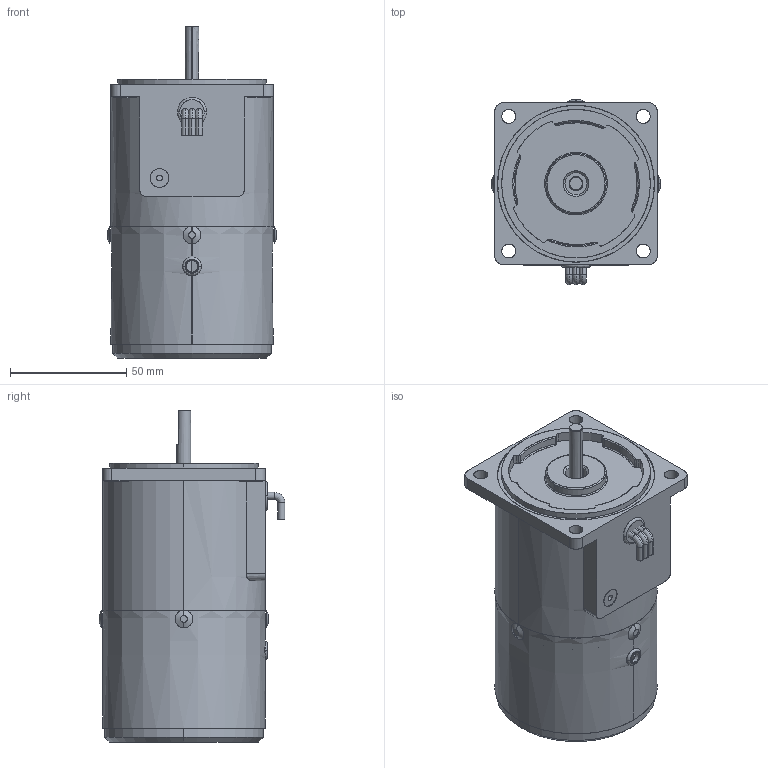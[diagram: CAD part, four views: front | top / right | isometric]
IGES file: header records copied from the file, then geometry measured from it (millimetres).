
Start section: SolidWorks IGES file using analytic representation for surfaces
Global section: file name: C:\Documents and Settings\user\官帕 拳搁\2015 墨呕肺弊 档搁荐沥\权其捞瘤 档搁\4. BRAKE\70\6W\(4-1) 7BDD∴-6.IGS; native system: SolidWorks 2007; preprocessor: SolidWorks 2007; author: user; date: 150324.090722; units: millimetre
Bounding box: 73 x 80 x 143 mm (x, y, z)
Surface area: 83516.7 mm2 (no closed solid volume)
Topology: 0 solids, 0 shells, 245 faces, 5081 edges, 5081 vertices
Faces by surface type: revolution 134, bspline 111
